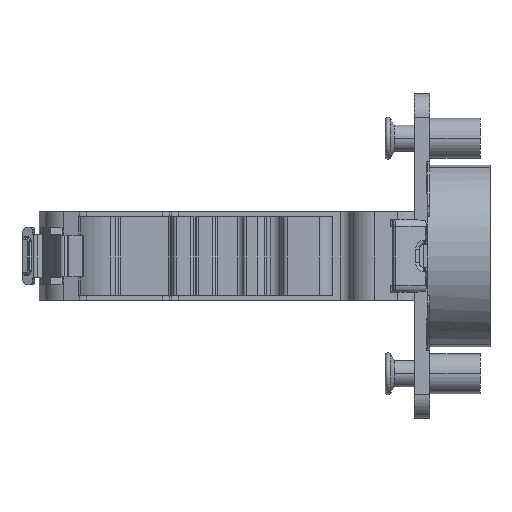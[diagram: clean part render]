
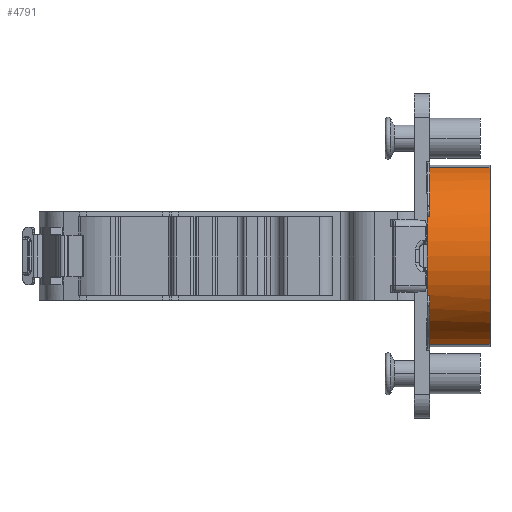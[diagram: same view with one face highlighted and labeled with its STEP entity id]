
A CAD part, front view. The second image highlights one B-rep face of the part: STEP entity #4791.
In plain terms, the highlighted cylindrical face has radius 17.4 mm (diameter 34.8 mm), a partial arc.
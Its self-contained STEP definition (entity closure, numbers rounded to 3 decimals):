
#162 = DIRECTION ( 'NONE',  ( -1., 0., 0. ) ) ;
#438 = CARTESIAN_POINT ( 'NONE',  ( 13., 1.092, 16.832 ) ) ;
#533 = CARTESIAN_POINT ( 'NONE',  ( 1.014, -10.053, -7.801 ) ) ;
#677 = DIRECTION ( 'NONE',  ( 1., 0., 0. ) ) ;
#916 = CARTESIAN_POINT ( 'NONE',  ( 1., -9.951, 8.001 ) ) ;
#967 = DIRECTION ( 'NONE',  ( -1., 0., 0. ) ) ;
#974 = CARTESIAN_POINT ( 'NONE',  ( 1., -9.907, 8.095 ) ) ;
#1326 = VERTEX_POINT ( 'NONE', #2435 ) ;
#1512 = EDGE_CURVE ( 'NONE', #9067, #10637, #3240, .T. ) ;
#1610 = CARTESIAN_POINT ( 'NONE',  ( 13., 5.5, 0. ) ) ;
#1638 = VERTEX_POINT ( 'NONE', #7589 ) ;
#1854 = EDGE_CURVE ( 'NONE', #10996, #13424, #6392, .T. ) ;
#2019 = CARTESIAN_POINT ( 'NONE',  ( 1.05, -10.201, 7.5 ) ) ;
#2122 = CARTESIAN_POINT ( 'NONE',  ( -8.5, -10.201, 7.5 ) ) ;
#2148 = CARTESIAN_POINT ( 'NONE',  ( 1.053, -10.201, -7.5 ) ) ;
#2174 = CARTESIAN_POINT ( 'NONE',  ( 1.5, -10.201, 7.5 ) ) ;
#2183 = CARTESIAN_POINT ( 'NONE',  ( -8.5, -10.201, -7.5 ) ) ;
#2186 = DIRECTION ( 'NONE',  ( 1., 0., 0. ) ) ;
#2435 = CARTESIAN_POINT ( 'NONE',  ( 1.5, 1.092, -16.834 ) ) ;
#2522 = CARTESIAN_POINT ( 'NONE',  ( 1., -9.905, -8.09 ) ) ;
#2591 = CARTESIAN_POINT ( 'NONE',  ( 1., -9.928, -8.046 ) ) ;
#2654 = EDGE_CURVE ( 'NONE', #10996, #5033, #9029, .T. ) ;
#2945 = DIRECTION ( 'NONE',  ( 1., 0., 0. ) ) ;
#2949 = ORIENTED_EDGE ( 'NONE', *, *, #8254, .T. ) ;
#2976 = VECTOR ( 'NONE', #9581, 1000. ) ;
#3030 = CARTESIAN_POINT ( 'NONE',  ( 13., 1.092, 16.832 ) ) ;
#3240 = LINE ( 'NONE', #3030, #13276 ) ;
#3421 = AXIS2_PLACEMENT_3D ( 'NONE', #7570, #2186, #9446 ) ;
#3761 = CARTESIAN_POINT ( 'NONE',  ( 1.5, 5.5, 0. ) ) ;
#3801 = CARTESIAN_POINT ( 'NONE',  ( 1.5, -10.201, -7.5 ) ) ;
#3943 = CARTESIAN_POINT ( 'NONE',  ( 1.015, -10.059, 7.789 ) ) ;
#3957 = VECTOR ( 'NONE', #2945, 1000. ) ;
#4011 = CARTESIAN_POINT ( 'NONE',  ( 1.025, -10.109, 7.69 ) ) ;
#4047 = ORIENTED_EDGE ( 'NONE', *, *, #13179, .T. ) ;
#4063 = VERTEX_POINT ( 'NONE', #3801 ) ;
#4148 = CARTESIAN_POINT ( 'NONE',  ( 1.033, -10.145, 7.616 ) ) ;
#4734 = CARTESIAN_POINT ( 'NONE',  ( 1.021, -10.094, -7.72 ) ) ;
#4773 = DIRECTION ( 'NONE',  ( 1., 0., 0. ) ) ;
#4791 = ADVANCED_FACE ( 'NONE', ( #7545 ), #12763, .T. ) ;
#4821 = ORIENTED_EDGE ( 'NONE', *, *, #1512, .T. ) ;
#4862 = VECTOR ( 'NONE', #7599, 1000. ) ;
#5033 = VERTEX_POINT ( 'NONE', #974 ) ;
#5059 = DIRECTION ( 'NONE',  ( 0., 0., 1. ) ) ;
#5390 = ORIENTED_EDGE ( 'NONE', *, *, #11056, .F. ) ;
#5767 = CARTESIAN_POINT ( 'NONE',  ( 1.01, -10.032, -7.843 ) ) ;
#5941 = CARTESIAN_POINT ( 'NONE',  ( 13., 1.092, -16.832 ) ) ;
#6003 = ORIENTED_EDGE ( 'NONE', *, *, #7427, .F. ) ;
#6099 = ORIENTED_EDGE ( 'NONE', *, *, #9130, .F. ) ;
#6119 = CARTESIAN_POINT ( 'NONE',  ( 7., -10.201, -7.5 ) ) ;
#6248 = VERTEX_POINT ( 'NONE', #2148 ) ;
#6392 = LINE ( 'NONE', #2122, #3957 ) ;
#6415 = B_SPLINE_CURVE_WITH_KNOTS ( 'NONE', 3,
 ( #2522, #2591, #6803, #11044, #5767, #12227, #9998, #533, #4734, #8959, #13207 ),
 .UNSPECIFIED., .F., .F.,
 ( 4, 1, 1, 1, 2, 2, 4 ),
 ( 0., 0.25, 0.375, 0.438, 0.469, 0.5, 1. ),
 .UNSPECIFIED. ) ;
#6465 = VECTOR ( 'NONE', #677, 1000. ) ;
#6802 = EDGE_CURVE ( 'NONE', #7017, #6248, #8060, .T. ) ;
#6803 = CARTESIAN_POINT ( 'NONE',  ( 1.002, -9.965, -7.976 ) ) ;
#7017 = VERTEX_POINT ( 'NONE', #12081 ) ;
#7427 = EDGE_CURVE ( 'NONE', #1326, #4063, #7608, .T. ) ;
#7545 = FACE_OUTER_BOUND ( 'NONE', #12075, .T. ) ;
#7570 = CARTESIAN_POINT ( 'NONE',  ( 1., 5.5, 0. ) ) ;
#7589 = CARTESIAN_POINT ( 'NONE',  ( 1., -9.905, -8.09 ) ) ;
#7599 = DIRECTION ( 'NONE',  ( 1., 0., 0. ) ) ;
#7608 = CIRCLE ( 'NONE', #9596, 17.4 ) ;
#7919 = CARTESIAN_POINT ( 'NONE',  ( 13., 1.092, -16.832 ) ) ;
#8060 = LINE ( 'NONE', #6119, #6465 ) ;
#8061 = AXIS2_PLACEMENT_3D ( 'NONE', #1610, #4773, #13320 ) ;
#8227 = CARTESIAN_POINT ( 'NONE',  ( 1., -9.907, 8.095 ) ) ;
#8254 = EDGE_CURVE ( 'NONE', #1326, #9125, #8570, .T. ) ;
#8392 = DIRECTION ( 'NONE',  ( 0., 0., 1. ) ) ;
#8531 = EDGE_CURVE ( 'NONE', #6248, #4063, #8606, .T. ) ;
#8570 = LINE ( 'NONE', #7919, #4862 ) ;
#8606 = LINE ( 'NONE', #2183, #2976 ) ;
#8617 = ORIENTED_EDGE ( 'NONE', *, *, #1854, .F. ) ;
#8689 = CARTESIAN_POINT ( 'NONE',  ( 1.5, 1.092, 16.834 ) ) ;
#8959 = CARTESIAN_POINT ( 'NONE',  ( 1.032, -10.142, -7.622 ) ) ;
#9029 = B_SPLINE_CURVE_WITH_KNOTS ( 'NONE', 3,
 ( #2019, #11567, #4148, #4011, #11292, #9205, #9339, #10392, #3943, #11432, #916, #8227 ),
 .UNSPECIFIED., .F., .F.,
 ( 4, 2, 1, 1, 2, 2, 4 ),
 ( 0., 0.25, 0.375, 0.437, 0.469, 0.5, 1. ),
 .UNSPECIFIED. ) ;
#9067 = VERTEX_POINT ( 'NONE', #438 ) ;
#9125 = VERTEX_POINT ( 'NONE', #5941 ) ;
#9130 = EDGE_CURVE ( 'NONE', #9067, #9125, #9166, .T. ) ;
#9166 = CIRCLE ( 'NONE', #8061, 17.4 ) ;
#9205 = CARTESIAN_POINT ( 'NONE',  ( 1.017, -10.073, 7.762 ) ) ;
#9339 = CARTESIAN_POINT ( 'NONE',  ( 1.016, -10.065, 7.777 ) ) ;
#9384 = CIRCLE ( 'NONE', #3421, 17.4 ) ;
#9446 = DIRECTION ( 'NONE',  ( 0., 0., 1. ) ) ;
#9509 = DIRECTION ( 'NONE',  ( -1., 0., 0. ) ) ;
#9556 = DIRECTION ( 'NONE',  ( 0., 0., 1. ) ) ;
#9581 = DIRECTION ( 'NONE',  ( 1., 0., 0. ) ) ;
#9596 = AXIS2_PLACEMENT_3D ( 'NONE', #13618, #9509, #8392 ) ;
#9998 = CARTESIAN_POINT ( 'NONE',  ( 1.013, -10.049, -7.81 ) ) ;
#10392 = CARTESIAN_POINT ( 'NONE',  ( 1.015, -10.061, 7.787 ) ) ;
#10574 = ORIENTED_EDGE ( 'NONE', *, *, #6802, .T. ) ;
#10637 = VERTEX_POINT ( 'NONE', #8689 ) ;
#10735 = AXIS2_PLACEMENT_3D ( 'NONE', #3761, #12222, #5059 ) ;
#10822 = EDGE_CURVE ( 'NONE', #5033, #1638, #9384, .T. ) ;
#10877 = ORIENTED_EDGE ( 'NONE', *, *, #2654, .T. ) ;
#10996 = VERTEX_POINT ( 'NONE', #11110 ) ;
#11044 = CARTESIAN_POINT ( 'NONE',  ( 1.007, -10.009, -7.888 ) ) ;
#11056 = EDGE_CURVE ( 'NONE', #13424, #10637, #11399, .T. ) ;
#11110 = CARTESIAN_POINT ( 'NONE',  ( 1.05, -10.201, 7.5 ) ) ;
#11154 = ORIENTED_EDGE ( 'NONE', *, *, #10822, .T. ) ;
#11292 = CARTESIAN_POINT ( 'NONE',  ( 1.021, -10.091, 7.725 ) ) ;
#11399 = CIRCLE ( 'NONE', #10735, 17.4 ) ;
#11432 = CARTESIAN_POINT ( 'NONE',  ( 1.005, -10.002, 7.904 ) ) ;
#11567 = CARTESIAN_POINT ( 'NONE',  ( 1.04, -10.171, 7.561 ) ) ;
#11854 = CARTESIAN_POINT ( 'NONE',  ( 13., 5.5, 0. ) ) ;
#12075 = EDGE_LOOP ( 'NONE', ( #2949, #6099, #4821, #5390, #8617, #10877, #11154, #4047, #10574, #12262, #6003 ) ) ;
#12081 = CARTESIAN_POINT ( 'NONE',  ( 1.047, -10.2, -7.5 ) ) ;
#12222 = DIRECTION ( 'NONE',  ( -1., 0., 0. ) ) ;
#12227 = CARTESIAN_POINT ( 'NONE',  ( 1.012, -10.042, -7.823 ) ) ;
#12262 = ORIENTED_EDGE ( 'NONE', *, *, #8531, .T. ) ;
#12306 = AXIS2_PLACEMENT_3D ( 'NONE', #11854, #162, #9556 ) ;
#12763 = CYLINDRICAL_SURFACE ( 'NONE', #12306, 17.4 ) ;
#13179 = EDGE_CURVE ( 'NONE', #1638, #7017, #6415, .T. ) ;
#13207 = CARTESIAN_POINT ( 'NONE',  ( 1.047, -10.2, -7.5 ) ) ;
#13276 = VECTOR ( 'NONE', #967, 1000. ) ;
#13320 = DIRECTION ( 'NONE',  ( 0., 0., -1. ) ) ;
#13424 = VERTEX_POINT ( 'NONE', #2174 ) ;
#13618 = CARTESIAN_POINT ( 'NONE',  ( 1.5, 5.5, 0. ) ) ;
